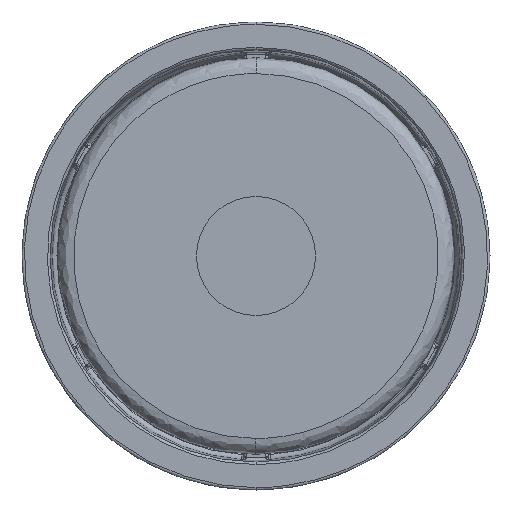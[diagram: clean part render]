
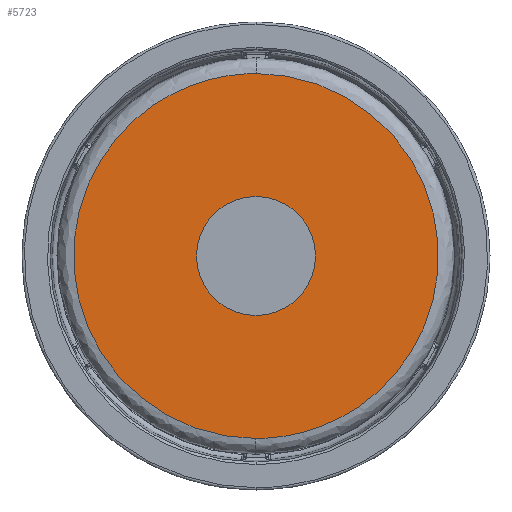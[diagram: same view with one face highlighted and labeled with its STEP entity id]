
A CAD part, front view. The second image highlights one B-rep face of the part: STEP entity #5723.
In plain terms, the highlighted planar face has unit normal (0, -1, 0).
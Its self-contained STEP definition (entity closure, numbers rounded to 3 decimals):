
#73 = CIRCLE ( 'NONE', #21870, 7.5 ) ;
#839 = CARTESIAN_POINT ( 'NONE',  ( 0., -3., 0. ) ) ;
#1324 = DIRECTION ( 'NONE',  ( 0., -1., 0. ) ) ;
#1728 = CARTESIAN_POINT ( 'NONE',  ( 0.074, -3., 23. ) ) ;
#2102 = FACE_OUTER_BOUND ( 'NONE', #8807, .T. ) ;
#2606 = DIRECTION ( 'NONE',  ( 0., 0., 1. ) ) ;
#2644 = ORIENTED_EDGE ( 'NONE', *, *, #6811, .T. ) ;
#3950 = CARTESIAN_POINT ( 'NONE',  ( 0., -3., 7.5 ) ) ;
#4651 = CARTESIAN_POINT ( 'NONE',  ( 0., -3., -7.5 ) ) ;
#4675 = ORIENTED_EDGE ( 'NONE', *, *, #11096, .F. ) ;
#4868 = AXIS2_PLACEMENT_3D ( 'NONE', #7961, #20309, #9765 ) ;
#5376 = EDGE_LOOP ( 'NONE', ( #5718, #2644 ) ) ;
#5429 = CARTESIAN_POINT ( 'NONE',  ( 45.926, -3., -23.148 ) ) ;
#5718 = ORIENTED_EDGE ( 'NONE', *, *, #8483, .T. ) ;
#5723 = ADVANCED_FACE ( 'NONE', ( #20951, #2102 ), #13798, .T. ) ;
#6811 = EDGE_CURVE ( 'NONE', #8937, #13483, #73, .T. ) ;
#6842 = ORIENTED_EDGE ( 'NONE', *, *, #14779, .F. ) ;
#7050 = CARTESIAN_POINT ( 'NONE',  ( -45.926, -3., 23.148 ) ) ;
#7961 = CARTESIAN_POINT ( 'NONE',  ( 0., -3., 0. ) ) ;
#8483 = EDGE_CURVE ( 'NONE', #13483, #8937, #21624, .T. ) ;
#8567 = AXIS2_PLACEMENT_3D ( 'NONE', #12095, #1324, #13871 ) ;
#8807 = EDGE_LOOP ( 'NONE', ( #4675, #6842 ) ) ;
#8882 = CARTESIAN_POINT ( 'NONE',  ( -46.074, -3., -22.852 ) ) ;
#8937 = VERTEX_POINT ( 'NONE', #4651 ) ;
#9765 = DIRECTION ( 'NONE',  ( 0., 0., 1. ) ) ;
#10814 = CARTESIAN_POINT ( 'NONE',  ( 0.074, -3., 23. ) ) ;
#11096 = EDGE_CURVE ( 'NONE', #14283, #11324, #17257, .T. ) ;
#11324 = VERTEX_POINT ( 'NONE', #12070 ) ;
#12070 = CARTESIAN_POINT ( 'NONE',  ( 0.074, -3., 23. ) ) ;
#12095 = CARTESIAN_POINT ( 'NONE',  ( 7.5, -3., -0.024 ) ) ;
#12468 = CARTESIAN_POINT ( 'NONE',  ( -0.074, -3., -23. ) ) ;
#12610 = CARTESIAN_POINT ( 'NONE',  ( 46.074, -3., 22.852 ) ) ;
#13389 = DIRECTION ( 'NONE',  ( 0., 1., 0. ) ) ;
#13483 = VERTEX_POINT ( 'NONE', #3950 ) ;
#13798 = PLANE ( 'NONE',  #8567 ) ;
#13871 = DIRECTION ( 'NONE',  ( 0., 0., -1. ) ) ;
#14283 = VERTEX_POINT ( 'NONE', #17966 ) ;
#14779 = EDGE_CURVE ( 'NONE', #11324, #14283, #18871, .T. ) ;
#17257 =( BOUNDED_CURVE ( )  B_SPLINE_CURVE ( 3, ( #12468, #8882, #7050, #1728 ),
 .UNSPECIFIED., .F., .F. ) 
 B_SPLINE_CURVE_WITH_KNOTS ( ( 4, 4 ),
 ( 0., 0.5 ),
 .UNSPECIFIED. ) 
 CURVE ( )  GEOMETRIC_REPRESENTATION_ITEM ( )  RATIONAL_B_SPLINE_CURVE ( ( 1., 0.333, 0.333, 1. ) ) 
 REPRESENTATION_ITEM ( '' )  );
#17921 = CARTESIAN_POINT ( 'NONE',  ( -0.074, -3., -23. ) ) ;
#17966 = CARTESIAN_POINT ( 'NONE',  ( -0.074, -3., -23. ) ) ;
#18871 =( BOUNDED_CURVE ( )  B_SPLINE_CURVE ( 3, ( #10814, #12610, #5429, #17921 ),
 .UNSPECIFIED., .F., .T. ) 
 B_SPLINE_CURVE_WITH_KNOTS ( ( 4, 4 ),
 ( 0.5, 1. ),
 .UNSPECIFIED. ) 
 CURVE ( )  GEOMETRIC_REPRESENTATION_ITEM ( )  RATIONAL_B_SPLINE_CURVE ( ( 1., 0.333, 0.333, 1. ) ) 
 REPRESENTATION_ITEM ( '' )  );
#20309 = DIRECTION ( 'NONE',  ( 0., 1., 0. ) ) ;
#20951 = FACE_BOUND ( 'NONE', #5376, .T. ) ;
#21624 = CIRCLE ( 'NONE', #4868, 7.5 ) ;
#21870 = AXIS2_PLACEMENT_3D ( 'NONE', #839, #13389, #2606 ) ;
